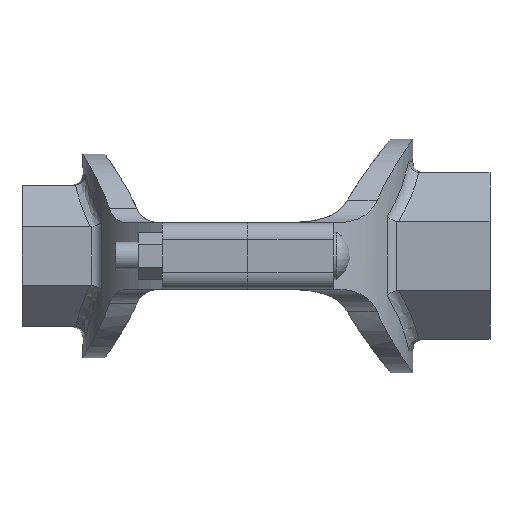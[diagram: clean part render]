
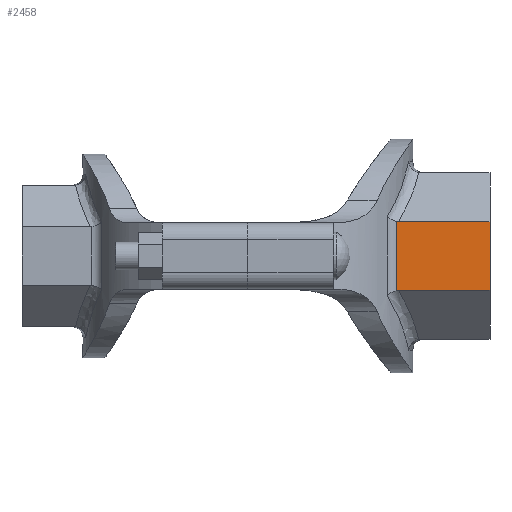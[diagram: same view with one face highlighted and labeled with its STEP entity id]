
A CAD part, left-side view. The second image highlights one B-rep face of the part: STEP entity #2458.
In plain terms, the highlighted planar face has unit normal (-1, 0, 0) as drawn and (1, 0, 0) by its records, which use the part's own axes.
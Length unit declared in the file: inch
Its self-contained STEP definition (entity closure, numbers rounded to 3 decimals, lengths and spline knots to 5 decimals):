
#82=B_SPLINE_CURVE_WITH_KNOTS('',3,(#4359,#4360,#4361,#4362),
 .UNSPECIFIED.,.F.,.F.,(4,4),(0.,0.11688),.UNSPECIFIED.);
#85=B_SPLINE_CURVE_WITH_KNOTS('',3,(#4410,#4411,#4412,#4413),
 .UNSPECIFIED.,.F.,.F.,(4,4),(0.82611,0.9633),
 .UNSPECIFIED.);
#294=FACE_OUTER_BOUND('',#441,.T.);
#441=EDGE_LOOP('',(#2064,#2065,#2066,#2067,#2068,#2069));
#571=LINE('',#4448,#753);
#582=LINE('',#4593,#764);
#626=LINE('',#5046,#808);
#627=LINE('',#5048,#809);
#753=VECTOR('',#3157,0.3937);
#764=VECTOR('',#3192,0.3937);
#808=VECTOR('',#3328,0.3937);
#809=VECTOR('',#3331,0.3937);
#1047=VERTEX_POINT('',#4356);
#1048=VERTEX_POINT('',#4358);
#1052=VERTEX_POINT('',#4398);
#1053=VERTEX_POINT('',#4409);
#1069=VERTEX_POINT('',#4592);
#1126=VERTEX_POINT('',#5044);
#1340=EDGE_CURVE('',#1047,#1048,#82,.T.);
#1345=EDGE_CURVE('',#1052,#1053,#85,.T.);
#1348=EDGE_CURVE('',#1052,#1048,#571,.T.);
#1372=EDGE_CURVE('',#1053,#1069,#582,.T.);
#1452=EDGE_CURVE('',#1047,#1126,#626,.T.);
#1453=EDGE_CURVE('',#1069,#1126,#627,.T.);
#2064=ORIENTED_EDGE('',*,*,#1348,.T.);
#2065=ORIENTED_EDGE('',*,*,#1340,.F.);
#2066=ORIENTED_EDGE('',*,*,#1452,.T.);
#2067=ORIENTED_EDGE('',*,*,#1453,.F.);
#2068=ORIENTED_EDGE('',*,*,#1372,.F.);
#2069=ORIENTED_EDGE('',*,*,#1345,.F.);
#2207=PLANE('',#2736);
#2458=ADVANCED_FACE('',(#294),#2207,.T.);
#2736=AXIS2_PLACEMENT_3D('',#5047,#3329,#3330);
#3157=DIRECTION('',(0.,0.,-1.));
#3192=DIRECTION('',(0.,1.,0.));
#3328=DIRECTION('',(0.,1.,0.));
#3329=DIRECTION('center_axis',(1.,0.,0.));
#3330=DIRECTION('ref_axis',(0.,0.,-1.));
#3331=DIRECTION('',(0.,0.,-1.));
#4356=CARTESIAN_POINT('',(1.89,3.42468,-0.78286));
#4358=CARTESIAN_POINT('',(1.89,3.37941,-0.78816));
#4359=CARTESIAN_POINT('Ctrl Pts',(1.89,3.42468,-0.78286));
#4360=CARTESIAN_POINT('Ctrl Pts',(1.89,3.40934,-0.78286));
#4361=CARTESIAN_POINT('Ctrl Pts',(1.89,3.39415,-0.78455));
#4362=CARTESIAN_POINT('Ctrl Pts',(1.89,3.37941,-0.78816));
#4398=CARTESIAN_POINT('',(1.89,3.37941,0.78816));
#4409=CARTESIAN_POINT('',(1.89,3.42468,0.78286));
#4410=CARTESIAN_POINT('Ctrl Pts',(1.89,3.37941,0.78816));
#4411=CARTESIAN_POINT('Ctrl Pts',(1.89,3.39415,0.78455));
#4412=CARTESIAN_POINT('Ctrl Pts',(1.89,3.40934,0.78286));
#4413=CARTESIAN_POINT('Ctrl Pts',(1.89,3.42468,0.78286));
#4448=CARTESIAN_POINT('',(1.89,3.37941,0.));
#4592=CARTESIAN_POINT('',(1.89,5.5,0.78286));
#4593=CARTESIAN_POINT('',(1.89,0.,0.78286));
#5044=CARTESIAN_POINT('',(1.89,5.5,-0.78286));
#5046=CARTESIAN_POINT('',(1.89,0.,-0.78286));
#5047=CARTESIAN_POINT('Origin',(1.89,0.,0.78286));
#5048=CARTESIAN_POINT('',(1.89,5.5,-0.78286));
